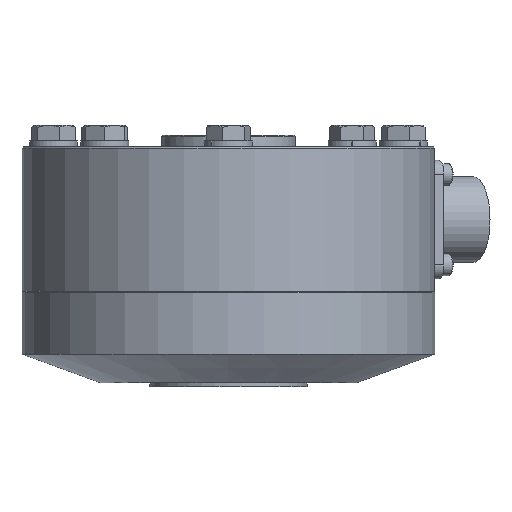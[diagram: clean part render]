
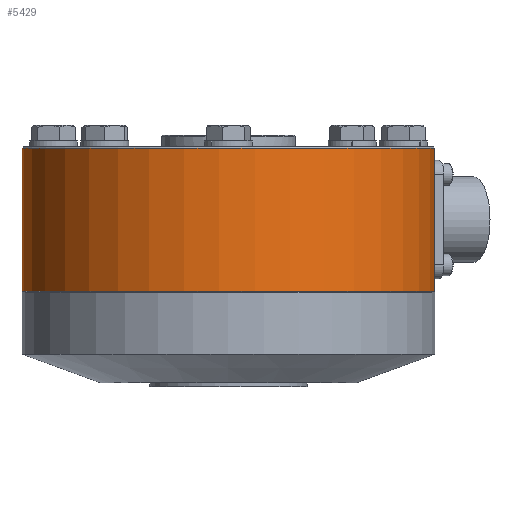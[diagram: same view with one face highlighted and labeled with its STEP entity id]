
A CAD part, left-side view. The second image highlights one B-rep face of the part: STEP entity #5429.
In plain terms, the highlighted cylindrical face has radius 52.5 mm (diameter 105 mm), a full revolution.
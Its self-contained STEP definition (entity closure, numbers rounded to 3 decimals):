
#342=LINE('',#7972,#642);
#343=LINE('',#7973,#643);
#642=VECTOR('',#6634,1000.);
#643=VECTOR('',#6635,1000.);
#870=CYLINDRICAL_SURFACE('',#5758,52.5);
#1588=ORIENTED_EDGE('',*,*,#2301,.T.);
#1589=ORIENTED_EDGE('',*,*,#2299,.T.);
#1590=ORIENTED_EDGE('',*,*,#2298,.F.);
#1591=ORIENTED_EDGE('',*,*,#2296,.T.);
#1592=ORIENTED_EDGE('',*,*,#2297,.F.);
#1593=ORIENTED_EDGE('',*,*,#2294,.T.);
#2294=EDGE_CURVE('',#2707,#2708,#2858,.F.);
#2296=EDGE_CURVE('',#2709,#2710,#2859,.F.);
#2297=EDGE_CURVE('',#2707,#2710,#342,.F.);
#2298=EDGE_CURVE('',#2709,#2708,#343,.T.);
#2299=EDGE_CURVE('',#2711,#2711,#2860,.T.);
#2301=EDGE_CURVE('',#2713,#2713,#2862,.F.);
#2707=VERTEX_POINT('',#7963);
#2708=VERTEX_POINT('',#7964);
#2709=VERTEX_POINT('',#7968);
#2710=VERTEX_POINT('',#7969);
#2711=VERTEX_POINT('',#7976);
#2713=VERTEX_POINT('',#7981);
#2858=CIRCLE('',#5751,52.5);
#2859=CIRCLE('',#5753,52.5);
#2860=CIRCLE('',#5756,52.5);
#2862=CIRCLE('',#5759,52.5);
#3125=EDGE_LOOP('',(#1588));
#3126=EDGE_LOOP('',(#1589));
#3127=EDGE_LOOP('',(#1590,#1591,#1592,#1593));
#3462=FACE_BOUND('',#3125,.T.);
#3463=FACE_BOUND('',#3126,.T.);
#3464=FACE_BOUND('',#3127,.T.);
#5429=ADVANCED_FACE('',(#3462,#3463,#3464),#870,.T.);
#5751=AXIS2_PLACEMENT_3D('',#7965,#6625,#6626);
#5753=AXIS2_PLACEMENT_3D('',#7970,#6630,#6631);
#5756=AXIS2_PLACEMENT_3D('',#7975,#6638,#6639);
#5758=AXIS2_PLACEMENT_3D('',#7979,#6642,#6643);
#5759=AXIS2_PLACEMENT_3D('',#7980,#6644,#6645);
#6625=DIRECTION('',(0.,0.,1.));
#6626=DIRECTION('',(-0.383,-0.924,0.));
#6630=DIRECTION('',(0.,0.,-1.));
#6631=DIRECTION('',(-0.924,0.383,0.));
#6634=DIRECTION('',(0.,0.,-1.));
#6635=DIRECTION('',(0.,0.,-1.));
#6638=DIRECTION('',(0.,0.,-1.));
#6639=DIRECTION('',(-0.924,0.383,0.));
#6642=DIRECTION('',(0.,0.,-1.));
#6643=DIRECTION('',(-0.924,0.383,0.));
#6644=DIRECTION('',(0.,0.,-1.));
#6645=DIRECTION('',(-0.924,0.383,0.));
#7963=CARTESIAN_POINT('',(33.923,-40.068,13.75));
#7964=CARTESIAN_POINT('',(4.345,-52.32,13.75));
#7965=CARTESIAN_POINT('',(0.,0.,13.75));
#7968=CARTESIAN_POINT('',(4.345,-52.32,45.75));
#7969=CARTESIAN_POINT('',(33.923,-40.068,45.75));
#7970=CARTESIAN_POINT('',(0.,0.,45.75));
#7972=CARTESIAN_POINT('',(33.923,-40.068,51.25));
#7973=CARTESIAN_POINT('',(4.345,-52.32,51.25));
#7975=CARTESIAN_POINT('',(0.,0.,47.95));
#7976=CARTESIAN_POINT('',(-48.504,20.091,47.95));
#7979=CARTESIAN_POINT('',(0.,0.,51.25));
#7980=CARTESIAN_POINT('',(0.,0.,11.55));
#7981=CARTESIAN_POINT('',(-48.504,20.091,11.55));
